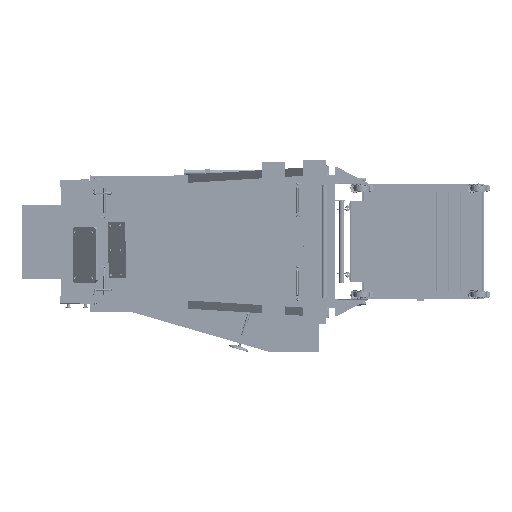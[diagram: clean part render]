
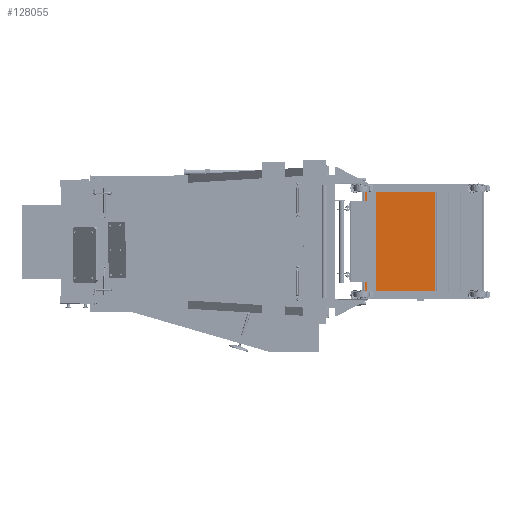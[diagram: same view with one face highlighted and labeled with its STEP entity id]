
A CAD part, front view. The second image highlights one B-rep face of the part: STEP entity #128055.
In plain terms, the highlighted planar face has unit normal (0, -1, 0) as drawn and (0, 0, -1) by its records, which use the part's own axes.
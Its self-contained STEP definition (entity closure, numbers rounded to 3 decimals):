
#127746=DIRECTION('',(0.,1.,0.));
#127747=VECTOR('',#127746,600.);
#127748=CARTESIAN_POINT('',(-165.382,-300.,800.));
#127749=LINE('',#127748,#127747);
#127760=DIRECTION('',(1.,0.,0.));
#127761=VECTOR('',#127760,498.651);
#127762=CARTESIAN_POINT('',(-664.033,300.,800.));
#127763=LINE('',#127762,#127761);
#127774=DIRECTION('',(0.,-1.,0.));
#127775=VECTOR('',#127774,600.);
#127776=CARTESIAN_POINT('',(-664.033,300.,800.));
#127777=LINE('',#127776,#127775);
#127810=DIRECTION('',(1.,0.,0.));
#127811=VECTOR('',#127810,498.651);
#127812=CARTESIAN_POINT('',(-664.033,-300.,800.));
#127813=LINE('',#127812,#127811);
#127949=CARTESIAN_POINT('',(-165.382,300.,800.));
#127951=VERTEX_POINT('',#127949);
#127952=CARTESIAN_POINT('',(-664.033,300.,800.));
#127953=VERTEX_POINT('',#127952);
#127972=CARTESIAN_POINT('',(-664.033,-300.,800.));
#127973=VERTEX_POINT('',#127972);
#127974=CARTESIAN_POINT('',(-165.382,-300.,800.));
#127975=VERTEX_POINT('',#127974);
#128042=CARTESIAN_POINT('',(-414.708,300.,800.));
#128043=DIRECTION('',(0.,0.,1.));
#128044=DIRECTION('',(-1.,0.,0.));
#128045=AXIS2_PLACEMENT_3D('',#128042,#128043,#128044);
#128046=PLANE('',#128045);
#128047=ORIENTED_EDGE('',*,*,#128022,.F.);
#128049=ORIENTED_EDGE('',*,*,#128048,.T.);
#128051=ORIENTED_EDGE('',*,*,#128050,.T.);
#128052=ORIENTED_EDGE('',*,*,#128033,.T.);
#128053=EDGE_LOOP('',(#128047,#128049,#128051,#128052));
#128054=FACE_OUTER_BOUND('',#128053,.F.);
#128022=EDGE_CURVE('',#127953,#127951,#127763,.T.);
#128033=EDGE_CURVE('',#127975,#127951,#127749,.T.);
#128048=EDGE_CURVE('',#127953,#127973,#127777,.T.);
#128050=EDGE_CURVE('',#127973,#127975,#127813,.T.);
#128055=ADVANCED_FACE('',(#128054),#128046,.F.);
